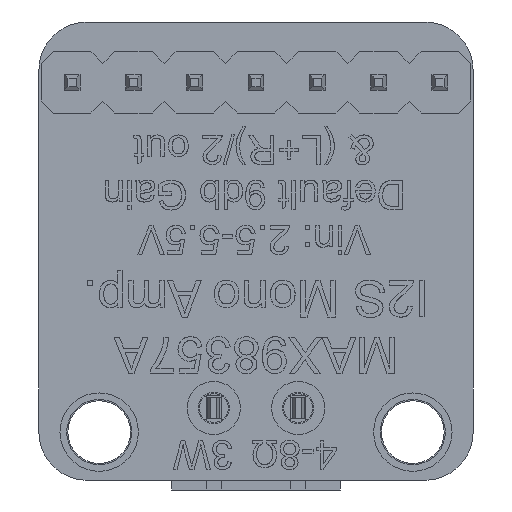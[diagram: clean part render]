
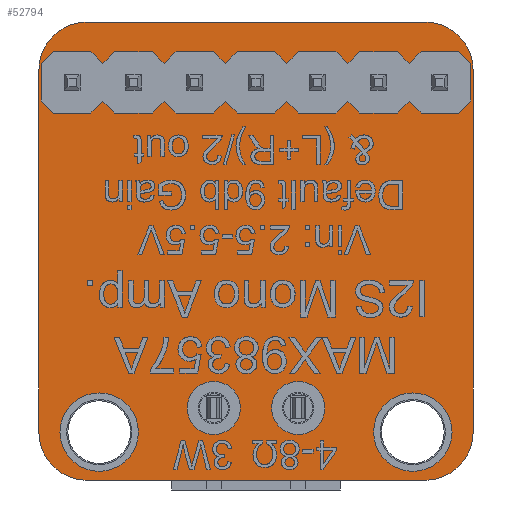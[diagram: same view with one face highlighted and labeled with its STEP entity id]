
A CAD part, front view. The second image highlights one B-rep face of the part: STEP entity #52794.
In plain terms, the highlighted planar face has unit normal (0, -1, 0).
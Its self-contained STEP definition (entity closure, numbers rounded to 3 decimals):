
#619=FACE_BOUND('',#10457,.T.);
#620=FACE_BOUND('',#10458,.T.);
#621=FACE_BOUND('',#10459,.T.);
#622=FACE_BOUND('',#10460,.T.);
#623=FACE_BOUND('',#10461,.T.);
#624=FACE_BOUND('',#10462,.T.);
#625=FACE_BOUND('',#10463,.T.);
#626=FACE_BOUND('',#10464,.T.);
#627=FACE_BOUND('',#10465,.T.);
#628=FACE_BOUND('',#10466,.T.);
#629=FACE_BOUND('',#10467,.T.);
#5307=PLANE('',#55978);
#7348=FACE_OUTER_BOUND('',#10456,.T.);
#10456=EDGE_LOOP('',(#41275,#41276,#41277,#41278,#41279,#41280,#41281,#41282));
#10457=EDGE_LOOP('',(#41283));
#10458=EDGE_LOOP('',(#41284));
#10459=EDGE_LOOP('',(#41285));
#10460=EDGE_LOOP('',(#41286));
#10461=EDGE_LOOP('',(#41287));
#10462=EDGE_LOOP('',(#41288));
#10463=EDGE_LOOP('',(#41289));
#10464=EDGE_LOOP('',(#41290));
#10465=EDGE_LOOP('',(#41291));
#10466=EDGE_LOOP('',(#41292));
#10467=EDGE_LOOP('',(#41293));
#12623=CIRCLE('',#55944,0.65);
#12624=CIRCLE('',#55946,0.65);
#12625=CIRCLE('',#55948,0.65);
#12626=CIRCLE('',#55950,0.65);
#12627=CIRCLE('',#55952,0.65);
#12628=CIRCLE('',#55954,0.65);
#12629=CIRCLE('',#55956,0.65);
#12630=CIRCLE('',#55958,0.65);
#12631=CIRCLE('',#55960,1.35);
#12632=CIRCLE('',#55962,1.35);
#12633=CIRCLE('',#55964,0.65);
#12634=CIRCLE('',#55967,2.);
#12635=CIRCLE('',#55970,2.);
#12636=CIRCLE('',#55973,2.);
#12637=CIRCLE('',#55976,2.);
#14739=LINE('',#80141,#19755);
#14742=LINE('',#80149,#19758);
#14745=LINE('',#80157,#19761);
#14748=LINE('',#80165,#19764);
#19755=VECTOR('',#60650,10.);
#19758=VECTOR('',#60659,10.);
#19761=VECTOR('',#60668,10.);
#19764=VECTOR('',#60677,10.);
#24775=VERTEX_POINT('',#80094);
#24776=VERTEX_POINT('',#80098);
#24777=VERTEX_POINT('',#80102);
#24778=VERTEX_POINT('',#80106);
#24779=VERTEX_POINT('',#80110);
#24780=VERTEX_POINT('',#80114);
#24781=VERTEX_POINT('',#80118);
#24782=VERTEX_POINT('',#80122);
#24783=VERTEX_POINT('',#80126);
#24784=VERTEX_POINT('',#80130);
#24785=VERTEX_POINT('',#80134);
#24786=VERTEX_POINT('',#80138);
#24787=VERTEX_POINT('',#80140);
#24788=VERTEX_POINT('',#80144);
#24789=VERTEX_POINT('',#80148);
#24790=VERTEX_POINT('',#80152);
#24791=VERTEX_POINT('',#80156);
#24792=VERTEX_POINT('',#80160);
#24793=VERTEX_POINT('',#80164);
#30792=EDGE_CURVE('',#24775,#24775,#12623,.T.);
#30794=EDGE_CURVE('',#24776,#24776,#12624,.T.);
#30796=EDGE_CURVE('',#24777,#24777,#12625,.T.);
#30798=EDGE_CURVE('',#24778,#24778,#12626,.T.);
#30800=EDGE_CURVE('',#24779,#24779,#12627,.T.);
#30802=EDGE_CURVE('',#24780,#24780,#12628,.T.);
#30804=EDGE_CURVE('',#24781,#24781,#12629,.T.);
#30806=EDGE_CURVE('',#24782,#24782,#12630,.T.);
#30808=EDGE_CURVE('',#24783,#24783,#12631,.T.);
#30810=EDGE_CURVE('',#24784,#24784,#12632,.T.);
#30812=EDGE_CURVE('',#24785,#24785,#12633,.T.);
#30815=EDGE_CURVE('',#24787,#24786,#14739,.T.);
#30817=EDGE_CURVE('',#24788,#24787,#12634,.T.);
#30819=EDGE_CURVE('',#24789,#24788,#14742,.T.);
#30821=EDGE_CURVE('',#24790,#24789,#12635,.T.);
#30823=EDGE_CURVE('',#24791,#24790,#14745,.T.);
#30825=EDGE_CURVE('',#24792,#24791,#12636,.T.);
#30827=EDGE_CURVE('',#24793,#24792,#14748,.T.);
#30829=EDGE_CURVE('',#24786,#24793,#12637,.T.);
#41275=ORIENTED_EDGE('',*,*,#30829,.T.);
#41276=ORIENTED_EDGE('',*,*,#30827,.T.);
#41277=ORIENTED_EDGE('',*,*,#30825,.T.);
#41278=ORIENTED_EDGE('',*,*,#30823,.T.);
#41279=ORIENTED_EDGE('',*,*,#30821,.T.);
#41280=ORIENTED_EDGE('',*,*,#30819,.T.);
#41281=ORIENTED_EDGE('',*,*,#30817,.T.);
#41282=ORIENTED_EDGE('',*,*,#30815,.T.);
#41283=ORIENTED_EDGE('',*,*,#30812,.T.);
#41284=ORIENTED_EDGE('',*,*,#30810,.T.);
#41285=ORIENTED_EDGE('',*,*,#30808,.T.);
#41286=ORIENTED_EDGE('',*,*,#30806,.T.);
#41287=ORIENTED_EDGE('',*,*,#30804,.T.);
#41288=ORIENTED_EDGE('',*,*,#30802,.T.);
#41289=ORIENTED_EDGE('',*,*,#30800,.T.);
#41290=ORIENTED_EDGE('',*,*,#30798,.T.);
#41291=ORIENTED_EDGE('',*,*,#30796,.T.);
#41292=ORIENTED_EDGE('',*,*,#30794,.T.);
#41293=ORIENTED_EDGE('',*,*,#30792,.T.);
#52794=ADVANCED_FACE('',(#7348,#619,#620,#621,#622,#623,#624,#625,#626,
#627,#628,#629),#5307,.F.);
#55944=AXIS2_PLACEMENT_3D('',#80095,#60594,#60595);
#55946=AXIS2_PLACEMENT_3D('',#80099,#60599,#60600);
#55948=AXIS2_PLACEMENT_3D('',#80103,#60604,#60605);
#55950=AXIS2_PLACEMENT_3D('',#80107,#60609,#60610);
#55952=AXIS2_PLACEMENT_3D('',#80111,#60614,#60615);
#55954=AXIS2_PLACEMENT_3D('',#80115,#60619,#60620);
#55956=AXIS2_PLACEMENT_3D('',#80119,#60624,#60625);
#55958=AXIS2_PLACEMENT_3D('',#80123,#60629,#60630);
#55960=AXIS2_PLACEMENT_3D('',#80127,#60634,#60635);
#55962=AXIS2_PLACEMENT_3D('',#80131,#60639,#60640);
#55964=AXIS2_PLACEMENT_3D('',#80135,#60644,#60645);
#55967=AXIS2_PLACEMENT_3D('',#80145,#60654,#60655);
#55970=AXIS2_PLACEMENT_3D('',#80153,#60663,#60664);
#55973=AXIS2_PLACEMENT_3D('',#80161,#60672,#60673);
#55976=AXIS2_PLACEMENT_3D('',#80168,#60681,#60682);
#55978=AXIS2_PLACEMENT_3D('',#80170,#60685,#60686);
#60594=DIRECTION('center_axis',(0.,1.,0.));
#60595=DIRECTION('ref_axis',(1.,0.,0.));
#60599=DIRECTION('center_axis',(0.,1.,0.));
#60600=DIRECTION('ref_axis',(1.,0.,0.));
#60604=DIRECTION('center_axis',(0.,1.,0.));
#60605=DIRECTION('ref_axis',(1.,0.,0.));
#60609=DIRECTION('center_axis',(0.,1.,0.));
#60610=DIRECTION('ref_axis',(1.,0.,0.));
#60614=DIRECTION('center_axis',(0.,1.,0.));
#60615=DIRECTION('ref_axis',(1.,0.,0.));
#60619=DIRECTION('center_axis',(0.,1.,0.));
#60620=DIRECTION('ref_axis',(1.,0.,0.));
#60624=DIRECTION('center_axis',(0.,1.,0.));
#60625=DIRECTION('ref_axis',(1.,0.,0.));
#60629=DIRECTION('center_axis',(0.,1.,0.));
#60630=DIRECTION('ref_axis',(1.,0.,0.));
#60634=DIRECTION('center_axis',(0.,1.,0.));
#60635=DIRECTION('ref_axis',(1.,0.,0.));
#60639=DIRECTION('center_axis',(0.,1.,0.));
#60640=DIRECTION('ref_axis',(1.,0.,0.));
#60644=DIRECTION('center_axis',(0.,1.,0.));
#60645=DIRECTION('ref_axis',(1.,0.,0.));
#60650=DIRECTION('',(1.,0.,0.));
#60654=DIRECTION('center_axis',(0.,-1.,0.));
#60655=DIRECTION('ref_axis',(0.,0.,-1.));
#60659=DIRECTION('',(0.,0.,-1.));
#60663=DIRECTION('center_axis',(0.,-1.,0.));
#60664=DIRECTION('ref_axis',(-1.,0.,0.));
#60668=DIRECTION('',(-1.,0.,0.));
#60672=DIRECTION('center_axis',(0.,-1.,0.));
#60673=DIRECTION('ref_axis',(0.,0.,1.));
#60677=DIRECTION('',(0.,0.,1.));
#60681=DIRECTION('center_axis',(0.,-1.,0.));
#60682=DIRECTION('ref_axis',(1.,0.,0.));
#60685=DIRECTION('center_axis',(0.,1.,0.));
#60686=DIRECTION('ref_axis',(1.,0.,0.));
#80094=CARTESIAN_POINT('',(-0.65,-1.55,7.));
#80095=CARTESIAN_POINT('Origin',(0.,-1.55,7.));
#80098=CARTESIAN_POINT('',(4.43,-1.55,7.));
#80099=CARTESIAN_POINT('Origin',(5.08,-1.55,7.));
#80102=CARTESIAN_POINT('',(6.97,-1.55,7.));
#80103=CARTESIAN_POINT('Origin',(7.62,-1.55,7.));
#80106=CARTESIAN_POINT('',(1.1,-1.55,-6.5));
#80107=CARTESIAN_POINT('Origin',(1.75,-1.55,-6.5));
#80110=CARTESIAN_POINT('',(-8.27,-1.55,7.));
#80111=CARTESIAN_POINT('Origin',(-7.62,-1.55,7.));
#80114=CARTESIAN_POINT('',(-5.73,-1.55,7.));
#80115=CARTESIAN_POINT('Origin',(-5.08,-1.55,7.));
#80118=CARTESIAN_POINT('',(-3.19,-1.55,7.));
#80119=CARTESIAN_POINT('Origin',(-2.54,-1.55,7.));
#80122=CARTESIAN_POINT('',(1.89,-1.55,7.));
#80123=CARTESIAN_POINT('Origin',(2.54,-1.55,7.));
#80126=CARTESIAN_POINT('',(5.15,-1.55,-7.5));
#80127=CARTESIAN_POINT('Origin',(6.5,-1.55,-7.5));
#80130=CARTESIAN_POINT('',(-7.85,-1.55,-7.5));
#80131=CARTESIAN_POINT('Origin',(-6.5,-1.55,-7.5));
#80134=CARTESIAN_POINT('',(-2.4,-1.55,-6.5));
#80135=CARTESIAN_POINT('Origin',(-1.75,-1.55,-6.5));
#80138=CARTESIAN_POINT('',(7.,-1.55,-9.5));
#80140=CARTESIAN_POINT('',(-7.,-1.55,-9.5));
#80141=CARTESIAN_POINT('',(-7.,-1.55,-9.5));
#80144=CARTESIAN_POINT('',(-9.,-1.55,-7.5));
#80145=CARTESIAN_POINT('Origin',(-7.,-1.55,-7.5));
#80148=CARTESIAN_POINT('',(-9.,-1.55,7.5));
#80149=CARTESIAN_POINT('',(-9.,-1.55,7.5));
#80152=CARTESIAN_POINT('',(-7.,-1.55,9.5));
#80153=CARTESIAN_POINT('Origin',(-7.,-1.55,7.5));
#80156=CARTESIAN_POINT('',(7.,-1.55,9.5));
#80157=CARTESIAN_POINT('',(7.,-1.55,9.5));
#80160=CARTESIAN_POINT('',(9.,-1.55,7.5));
#80161=CARTESIAN_POINT('Origin',(7.,-1.55,7.5));
#80164=CARTESIAN_POINT('',(9.,-1.55,-7.5));
#80165=CARTESIAN_POINT('',(9.,-1.55,-7.5));
#80168=CARTESIAN_POINT('Origin',(7.,-1.55,-7.5));
#80170=CARTESIAN_POINT('Origin',(0.,-1.55,0.));
